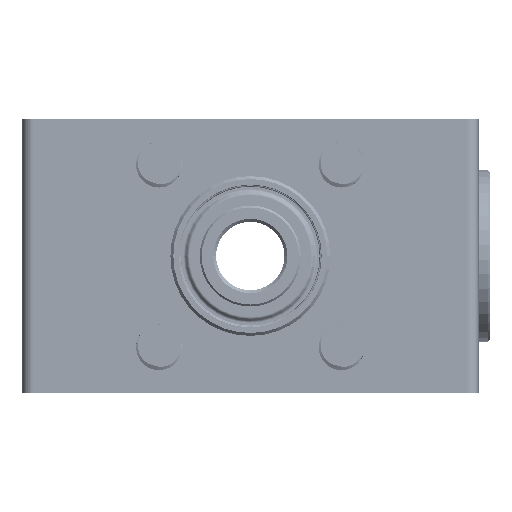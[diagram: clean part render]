
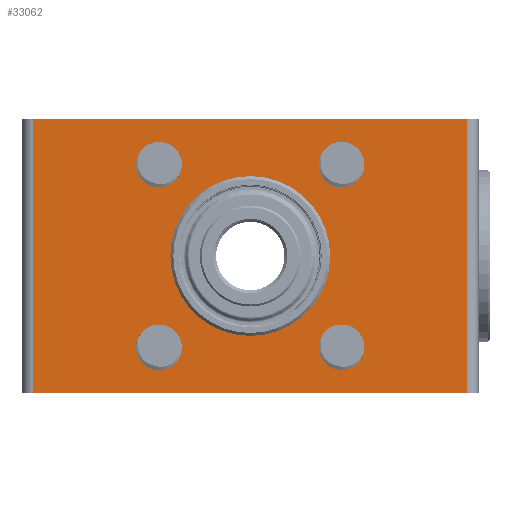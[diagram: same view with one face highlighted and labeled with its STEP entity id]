
A CAD part, front view. The second image highlights one B-rep face of the part: STEP entity #33062.
In plain terms, the highlighted planar face has unit normal (0, -1, 0).
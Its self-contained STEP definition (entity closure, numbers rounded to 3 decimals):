
#19218=CARTESIAN_POINT('',(27.,0.,12.));
#19219=VERTEX_POINT('',#19218);
#19220=CARTESIAN_POINT('',(20.,0.,12.));
#19221=DIRECTION('',(1.,-0.,-0.));
#19222=DIRECTION('',(0.,-1.,0.));
#19223=AXIS2_PLACEMENT_3D('',#19220,#19222,#19221);
#19224=CIRCLE('',#19223,7.);
#19225=EDGE_CURVE('',#19219,#19219,#19224,.T.);
#19251=CARTESIAN_POINT('',(14.,0.,4.));
#19252=VERTEX_POINT('',#19251);
#19253=CARTESIAN_POINT('',(12.,0.,4.));
#19254=DIRECTION('',(1.,-0.,-0.));
#19255=DIRECTION('',(0.,-1.,0.));
#19256=AXIS2_PLACEMENT_3D('',#19253,#19255,#19254);
#19257=CIRCLE('',#19256,2.);
#19258=EDGE_CURVE('',#19252,#19252,#19257,.T.);
#19373=CARTESIAN_POINT('',(30.,0.,4.));
#19374=VERTEX_POINT('',#19373);
#19375=CARTESIAN_POINT('',(28.,0.,4.));
#19376=DIRECTION('',(1.,-0.,-0.));
#19377=DIRECTION('',(0.,-1.,0.));
#19378=AXIS2_PLACEMENT_3D('',#19375,#19377,#19376);
#19379=CIRCLE('',#19378,2.);
#19380=EDGE_CURVE('',#19374,#19374,#19379,.T.);
#19505=CARTESIAN_POINT('',(30.,0.,20.));
#19506=VERTEX_POINT('',#19505);
#19507=CARTESIAN_POINT('',(28.,0.,20.));
#19508=DIRECTION('',(1.,-0.,-0.));
#19509=DIRECTION('',(0.,-1.,0.));
#19510=AXIS2_PLACEMENT_3D('',#19507,#19509,#19508);
#19511=CIRCLE('',#19510,2.);
#19512=EDGE_CURVE('',#19506,#19506,#19511,.T.);
#19637=CARTESIAN_POINT('',(14.,0.,20.));
#19638=VERTEX_POINT('',#19637);
#19639=CARTESIAN_POINT('',(12.,0.,20.));
#19640=DIRECTION('',(1.,0.,0.));
#19641=DIRECTION('',(0.,-1.,0.));
#19642=AXIS2_PLACEMENT_3D('',#19639,#19641,#19640);
#19643=CIRCLE('',#19642,2.);
#19644=EDGE_CURVE('',#19638,#19638,#19643,.T.);
#33008=CARTESIAN_POINT('',(20.,0.,12.));
#33009=DIRECTION('',(1.,0.,0.));
#33010=DIRECTION('',(0.,-1.,0.));
#33011=AXIS2_PLACEMENT_3D('',#33008,#33010,#33009);
#33012=PLANE('',#33011);
#33013=CARTESIAN_POINT('',(1.,0.,24.));
#33014=VERTEX_POINT('',#33013);
#33015=CARTESIAN_POINT('',(39.,0.,24.));
#33016=VERTEX_POINT('',#33015);
#33017=CARTESIAN_POINT('',(1.,0.,24.));
#33018=DIRECTION('',(1.,0.,0.));
#33019=VECTOR('',#33018,38.);
#33020=LINE('',#33017,#33019);
#33021=EDGE_CURVE('',#33014,#33016,#33020,.T.);
#33022=ORIENTED_EDGE('E5',*,*,#33021,.F.);
#33023=CARTESIAN_POINT('',(1.,0.,0.));
#33024=VERTEX_POINT('',#33023);
#33025=CARTESIAN_POINT('',(1.,0.,0.));
#33026=DIRECTION('',(0.,0.,1.));
#33027=VECTOR('',#33026,24.);
#33028=LINE('',#33025,#33027);
#33029=EDGE_CURVE('',#33024,#33014,#33028,.T.);
#33030=ORIENTED_EDGE('E793',*,*,#33029,.F.);
#33031=CARTESIAN_POINT('',(39.,0.,0.));
#33032=VERTEX_POINT('',#33031);
#33033=CARTESIAN_POINT('',(1.,0.,0.));
#33034=DIRECTION('',(1.,0.,0.));
#33035=VECTOR('',#33034,38.);
#33036=LINE('',#33033,#33035);
#33037=EDGE_CURVE('',#33024,#33032,#33036,.T.);
#33038=ORIENTED_EDGE('E1',*,*,#33037,.T.);
#33039=CARTESIAN_POINT('',(39.,0.,0.));
#33040=DIRECTION('',(0.,0.,1.));
#33041=VECTOR('',#33040,24.);
#33042=LINE('',#33039,#33041);
#33043=EDGE_CURVE('',#33032,#33016,#33042,.T.);
#33044=ORIENTED_EDGE('E780',*,*,#33043,.T.);
#33045=EDGE_LOOP('',(#33022,#33030,#33038,#33044));
#33046=FACE_OUTER_BOUND('',#33045,.T.);
#33047=ORIENTED_EDGE('',*,*,#19512,.F.);
#33048=EDGE_LOOP('',(#33047));
#33049=FACE_BOUND('',#33048,.T.);
#33050=ORIENTED_EDGE('',*,*,#19380,.F.);
#33051=EDGE_LOOP('',(#33050));
#33052=FACE_BOUND('',#33051,.T.);
#33053=ORIENTED_EDGE('',*,*,#19258,.F.);
#33054=EDGE_LOOP('',(#33053));
#33055=FACE_BOUND('',#33054,.T.);
#33056=ORIENTED_EDGE('',*,*,#19644,.F.);
#33057=EDGE_LOOP('',(#33056));
#33058=FACE_BOUND('',#33057,.T.);
#33059=ORIENTED_EDGE('',*,*,#19225,.F.);
#33060=EDGE_LOOP('',(#33059));
#33061=FACE_BOUND('',#33060,.T.);
#33062=ADVANCED_FACE('F3',(#33046,#33049,#33052,#33055,#33058,#33061),#33012,.T.);
